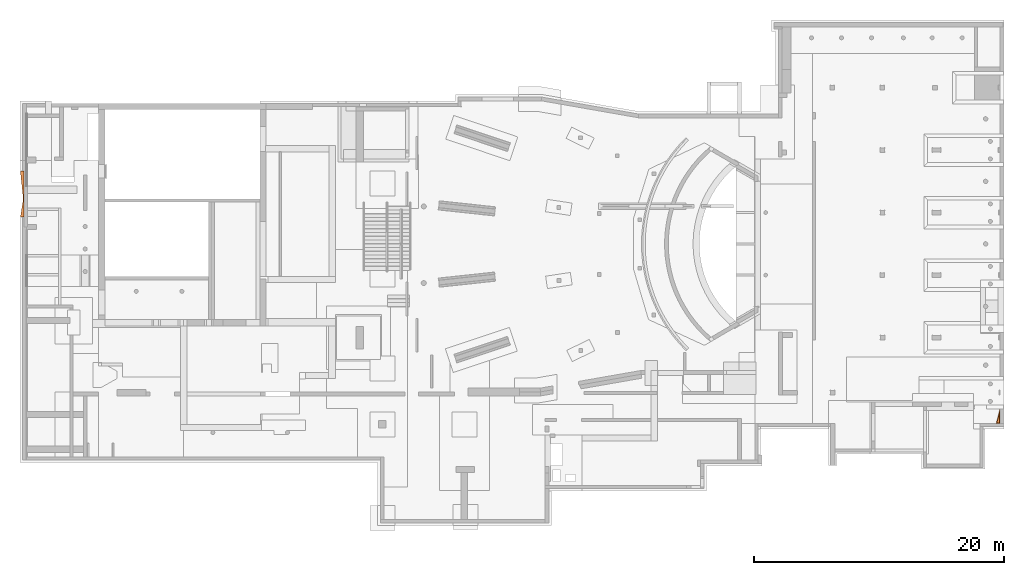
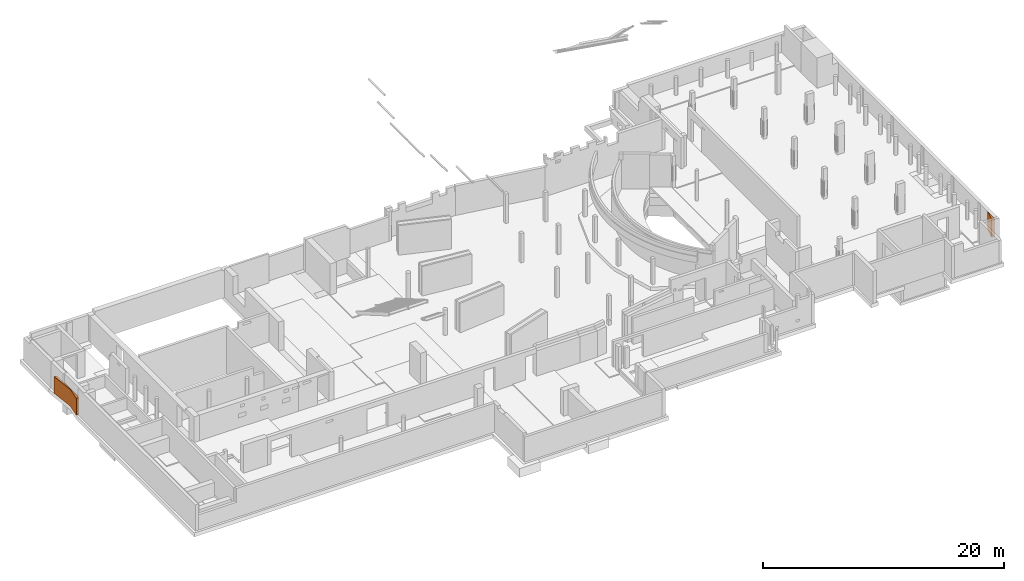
# One storey, part 42 of 42: 2 proxies.
"""IFC2X3 building model written with IfcOpenShell, lengths in millimetres."""

from ifc_helpers import new_model, entity, si_unit, converted_unit, derived_unit, direction, frame, origin, place, context, subcontext, project, spatial, polyline, outline, extrude, source, transform, mapped, material, type_object, type_shapes, element, save


model = new_model("IFC2X3")

# Units and contexts
model_context = context("Model", 3, precision=0.01, world=origin(), true_north=direction((6.12303176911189e-17, 1.0)))
body_context = subcontext(model_context, "Body", "Model", "MODEL_VIEW")
ifc_project = project(units=[si_unit("LENGTHUNIT", "METRE", prefix="MILLI"), si_unit("AREAUNIT", "SQUARE_METRE", prefix="MILLI"), si_unit("VOLUMEUNIT", "CUBIC_METRE"), converted_unit("PLANEANGLEUNIT", "DEGREE", entity("IfcRatioMeasure", 0.0174532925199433), si_unit("PLANEANGLEUNIT", "RADIAN"), dimensions=[0, 0, 0, 0, 0, 0, 0]), si_unit("MASSUNIT", "GRAM", prefix="KILO"), derived_unit("MASSDENSITYUNIT", [(si_unit("MASSUNIT", "GRAM", prefix="KILO"), 1), (si_unit("LENGTHUNIT", "METRE"), -3)]), derived_unit("MOMENTOFINERTIAUNIT", [(si_unit("LENGTHUNIT", "METRE"), 4)]), si_unit("TIMEUNIT", "SECOND"), si_unit("FREQUENCYUNIT", "HERTZ"), si_unit("THERMODYNAMICTEMPERATUREUNIT", "DEGREE_CELSIUS"), derived_unit("THERMALTRANSMITTANCEUNIT", [(si_unit("MASSUNIT", "GRAM", prefix="KILO"), 1), (si_unit("THERMODYNAMICTEMPERATUREUNIT", "KELVIN"), -1), (si_unit("TIMEUNIT", "SECOND"), -3)]), derived_unit("VOLUMETRICFLOWRATEUNIT", [(si_unit("LENGTHUNIT", "METRE"), 3), (si_unit("TIMEUNIT", "SECOND"), -1)]), si_unit("ELECTRICCURRENTUNIT", "AMPERE"), si_unit("ELECTRICVOLTAGEUNIT", "VOLT"), si_unit("POWERUNIT", "WATT"), si_unit("FORCEUNIT", "NEWTON", prefix="KILO"), si_unit("ILLUMINANCEUNIT", "LUX"), si_unit("LUMINOUSFLUXUNIT", "LUMEN"), si_unit("LUMINOUSINTENSITYUNIT", "CANDELA"), derived_unit("USERDEFINED", [(si_unit("MASSUNIT", "GRAM", prefix="KILO"), -1), (si_unit("LENGTHUNIT", "METRE"), -2), (si_unit("TIMEUNIT", "SECOND"), 3), (si_unit("LUMINOUSFLUXUNIT", "LUMEN"), 1)]), derived_unit("LINEARVELOCITYUNIT", [(si_unit("LENGTHUNIT", "METRE"), 1), (si_unit("TIMEUNIT", "SECOND"), -1)]), si_unit("PRESSUREUNIT", "PASCAL"), derived_unit("USERDEFINED", [(si_unit("LENGTHUNIT", "METRE"), -2), (si_unit("MASSUNIT", "GRAM", prefix="KILO"), 1), (si_unit("TIMEUNIT", "SECOND"), -2)]), derived_unit("LINEARFORCEUNIT", [(si_unit("MASSUNIT", "GRAM", prefix="KILO"), 1), (si_unit("LENGTHUNIT", "METRE"), 1), (si_unit("TIMEUNIT", "SECOND"), -2), (si_unit("LENGTHUNIT", "METRE"), -1)]), derived_unit("PLANARFORCEUNIT", [(si_unit("MASSUNIT", "GRAM", prefix="KILO"), 1), (si_unit("LENGTHUNIT", "METRE"), 1), (si_unit("TIMEUNIT", "SECOND"), -2), (si_unit("LENGTHUNIT", "METRE"), -2)])], contexts=[model_context])

# Site, building, storey
site_placement = place(None, origin())
site = spatial("IfcSite", under=ifc_project, at=site_placement, Name="Theater aan de Parade", CompositionType="ELEMENT")
building_placement = place(site_placement, origin())
building = spatial("IfcBuilding", under=site, at=building_placement, Name="Theater aan de Parade", CompositionType="ELEMENT")
storey_placement = place(building_placement, frame((0.0, 0.0, -3300.0)))
storey = spatial("IfcBuildingStorey", under=building, at=storey_placement, Name="-1 kelder", CompositionType="ELEMENT", Elevation=-3300.0)

# Proxies
ifc_material = material(Name="00_PBT_MAT_beton t.p.g.")
building_element_proxy_type_1 = type_object("IfcBuildingElementProxyType", Name="Generic Models 1:Generic Models 1", PredefinedType="NOTDEFINED", material=ifc_material)
shared_shape_1 = source(origin(), body_context, "Body", "SweptSolid", [
    extrude(outline(polyline([(-369.387774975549, -94.3435659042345), (738.775549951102, -94.3435659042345), (-369.387774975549, 188.687131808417), (-369.387774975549, -94.3435659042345)])), frame((88265.6564340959, 18474.3877749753, -2640.0), z_axis=(0.0, 0.0, 1.0), x_axis=(0.0, 1.0, 0.0)), (0.0, 0.0, 1.0), 1840.0),
])
type_shapes(building_element_proxy_type_1, [shared_shape_1])
proxy_1_placement = place(storey_placement, frame((0.0, 0.0, 3300.0)))
element("IfcBuildingElementProxy", 1, at=proxy_1_placement, inside=storey, type_object=building_element_proxy_type_1, material=ifc_material, Name="Generic Models 1:Generic Models 1", ObjectType="Generic Models 1:Generic Models 1", context=body_context, shape_type="MappedRepresentation", body=[
    mapped(shared_shape_1, transform((0.0, 0.0, 0.0), scale=1.0)),
])
building_element_proxy_type_2 = type_object("IfcBuildingElementProxyType", Name="Generic Models 4:Generic Models 1", PredefinedType="NOTDEFINED", material=ifc_material)
shared_shape_2 = source(origin(), body_context, "Body", "SweptSolid", [
    extrude(outline(polyline([(416.967482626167, 119.454861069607), (1858.95225964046, 119.454861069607), (1833.48164952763, 281.375168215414), (1816.38846630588, 390.038975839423), (-618.66867726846, 6.99627909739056), (-1789.27424121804, -177.143921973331), (-1772.18105799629, -285.80772959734), (-1745.66588161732, -454.368493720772), (416.967482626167, 119.454861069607)])), frame((10196.9521874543, 36479.9335868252, -3340.0), z_axis=(0.0, 0.0, 1.0), x_axis=(-0.15539257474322, -0.987852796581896, 0.0)), (0.0, 0.0, 1.0), 1690.00000000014),
])
type_shapes(building_element_proxy_type_2, [shared_shape_2])
proxy_2_placement = place(storey_placement, frame((0.0, 0.0, 3300.0)))
element("IfcBuildingElementProxy", 2, at=proxy_2_placement, inside=storey, type_object=building_element_proxy_type_2, material=ifc_material, Name="Generic Models 4:Generic Models 1", ObjectType="Generic Models 4:Generic Models 1", context=body_context, shape_type="MappedRepresentation", body=[
    mapped(shared_shape_2, transform((0.0, 0.0, 0.0), scale=1.0)),
])

save(model, "model.ifc")
